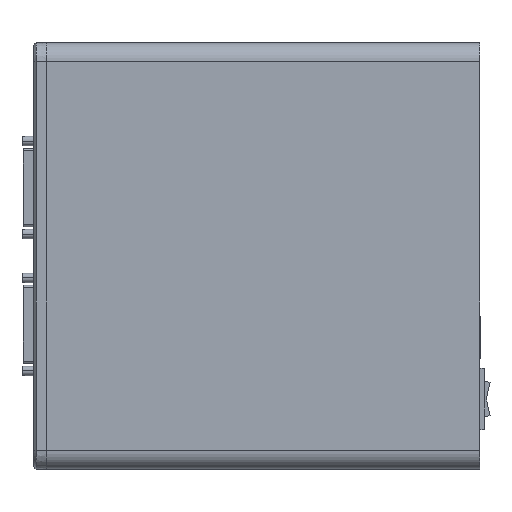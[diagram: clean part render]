
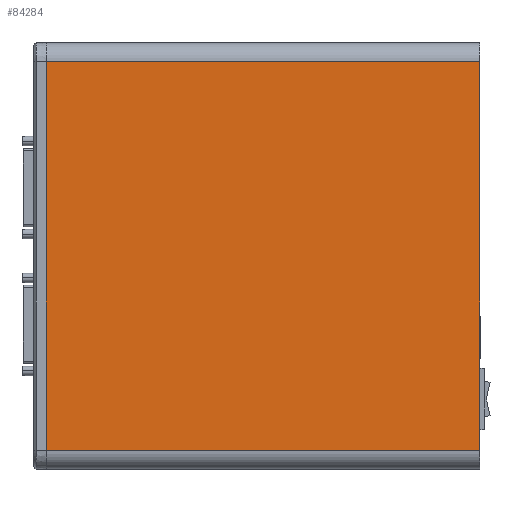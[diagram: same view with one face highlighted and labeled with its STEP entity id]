
A CAD part, top view. The second image highlights one B-rep face of the part: STEP entity #84284.
In plain terms, the highlighted planar face has unit normal (0, 0, 1).
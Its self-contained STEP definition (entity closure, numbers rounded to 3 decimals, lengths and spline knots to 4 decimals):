
#16394=DIRECTION('',(0.,-1.,0.));
#16395=VECTOR('',#16394,6.2);
#16396=CARTESIAN_POINT('',(3.5597,3.1,
0.9728));
#16397=LINE('',#16396,#16395);
#16550=DIRECTION('',(-1.,0.,0.));
#16551=VECTOR('',#16550,6.91);
#16552=CARTESIAN_POINT('',(3.5597,3.1,
0.9728));
#16553=LINE('',#16552,#16551);
#16610=DIRECTION('',(1.,0.,0.));
#16611=VECTOR('',#16610,6.91);
#16612=CARTESIAN_POINT('',(-3.3503,-3.1,
0.9728));
#16613=LINE('',#16612,#16611);
#16681=DIRECTION('',(0.,-1.,0.));
#16682=VECTOR('',#16681,6.2);
#16683=CARTESIAN_POINT('',(-3.3503,3.1,
0.9728));
#16684=LINE('',#16683,#16682);
#76926=CARTESIAN_POINT('',(-3.3503,3.1,
0.9728));
#76927=CARTESIAN_POINT('',(-3.3503,-3.1,
0.9728));
#76928=VERTEX_POINT('',#76926);
#76929=VERTEX_POINT('',#76927);
#77057=CARTESIAN_POINT('',(3.5597,3.1,
0.9728));
#77059=VERTEX_POINT('',#77057);
#77068=CARTESIAN_POINT('',(3.5597,-3.1,
0.9728));
#77070=VERTEX_POINT('',#77068);
#84272=CARTESIAN_POINT('',(-3.3503,3.4,
0.9728));
#84273=DIRECTION('',(0.,0.,1.));
#84274=DIRECTION('',(0.,-1.,0.));
#84275=AXIS2_PLACEMENT_3D('',#84272,#84273,#84274);
#84276=PLANE('',#84275);
#84277=ORIENTED_EDGE('',*,*,#84157,.F.);
#84278=ORIENTED_EDGE('',*,*,#84051,.T.);
#84279=ORIENTED_EDGE('',*,*,#84263,.F.);
#84281=ORIENTED_EDGE('',*,*,#84280,.F.);
#84282=EDGE_LOOP('',(#84277,#84278,#84279,#84281));
#84283=FACE_OUTER_BOUND('',#84282,.F.);
#84284=ADVANCED_FACE('',(#84283),#84276,.T.);
#84051=EDGE_CURVE('',#77059,#77070,#16397,.T.);
#84157=EDGE_CURVE('',#77059,#76928,#16553,.T.);
#84263=EDGE_CURVE('',#76929,#77070,#16613,.T.);
#84280=EDGE_CURVE('',#76928,#76929,#16684,.T.);
